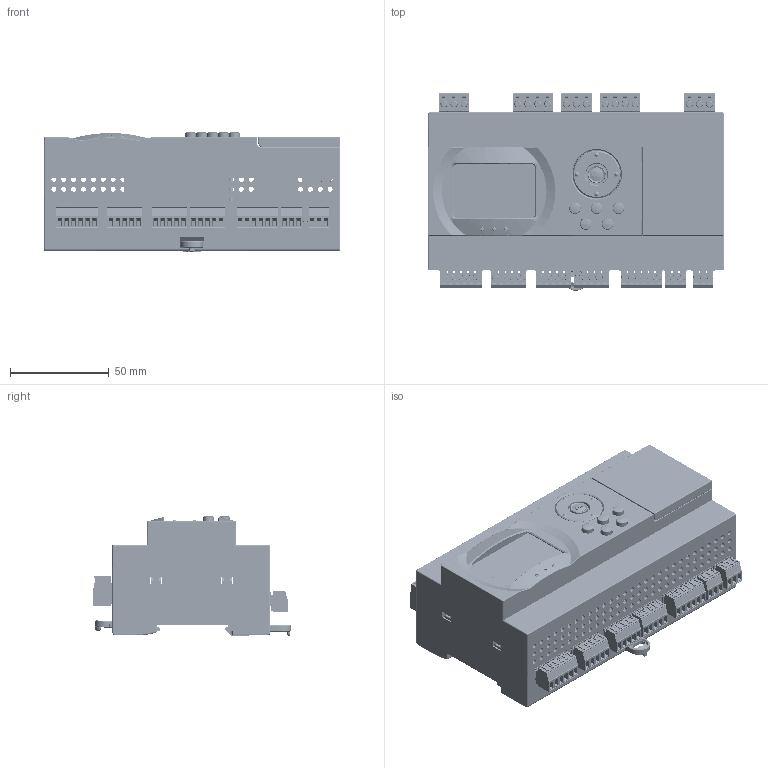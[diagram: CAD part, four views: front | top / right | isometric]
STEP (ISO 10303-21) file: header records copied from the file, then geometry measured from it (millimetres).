
FILE_DESCRIPTION (( 'STEP AP203' ), '1' );
FILE_NAME ('SMRE-HAVC-蚾饜极-V1.0.STEP', '2024-06-20T02:58:25', ( '' ), ( '' ), 'SwSTEP 2.0', 'SolidWorks 2018', '' );
FILE_SCHEMA (( 'CONFIG_CONTROL_DESIGN' ));
Length unit declared in the file: millimetre
Products named in the file (32): 28IO-JCJ; TP-508-3P-蚾饜极; SMRE-HAV-YJPJP-V1.0; HA03-01A+PA03-01A?3-5-3P; 縐諶1; TP-508-4P-蚾饜极; COMPOUND.step-12_1.stp.SLDPRT.stp.STEP-1; SM-寡蝶偌瑩-V1.0; FRB-12864R42-WX(1); USB-101AA.stp; HA03-01A+PA03-01A?3-5-6P; USB-101 .stp; HA05-00C+PA05-00A-3P-C; SMRE-HAV-PCB1-V1.0; SMRE-HAV-PCB2-V1.0; SMRE-HAVC-蚾饜极-V1.0; SMRE-HAV-SG-V1.0; USB-C; SMRE-HAV-FG-V1.0; HA05-00C+PA05-00A-4P-C; 縐諶2; USB-1010; JL2EDGRC-5.08-4P-T; RJ45-LED; HA03-01A+PA03-01A?3-5-5P; SMRE-HAV-PCB蚾饜极-V1.0; SW-T1-A0410-H5; DDC-7P絳嫖翐-G3P; JL2EDGRC-5.08-3P-T; USB-101BB.stp; TF縐羞-LCEDA; SMRE-HAV-XG-V1.0
Assembly tree (47 placements, depth 5):
  SMRE-HAVC-蚾饜极-V1.0
    SMRE-HAV-XG-V1.0
    SMRE-HAV-SG-V1.0
    縐諶1
    縐諶2
    SMRE-HAV-PCB蚾饜极-V1.0
      SMRE-HAV-PCB1-V1.0
      SMRE-HAV-PCB2-V1.0
      HA03-01A+PA03-01A?3-5-6P  x2
      HA03-01A+PA03-01A?3-5-5P  x3
      HA03-01A+PA03-01A?3-5-3P  x2
      28IO-JCJ
      COMPOUND.step-12_1.stp.SLDPRT.stp.STEP-1
      USB-C
      TF縐羞-LCEDA
      FRB-12864R42-WX(1)
      RJ45-LED
      SW-T1-A0410-H5  x10
      USB-1010
        USB-101 .stp
          USB-101AA.stp
          USB-101BB.stp
      TP-508-3P-蚾饜极  x3
        JL2EDGRC-5.08-3P-T
        HA05-00C+PA05-00A-3P-C
      TP-508-4P-蚾饜极  x2
        JL2EDGRC-5.08-4P-T
        HA05-00C+PA05-00A-4P-C
    DDC-7P絳嫖翐-G3P
    SM-寡蝶偌瑩-V1.0
    SMRE-HAV-FG-V1.0
    SMRE-HAV-YJPJP-V1.0
Bounding box: 150 x 100.1 x 60.7 mm (x, y, z)
Volume: 189530.4 mm3; surface area: 243312.6 mm2
Topology: 109 solids, 440 shells, 21844 faces, 60950 edges, 40112 vertices
Faces by surface type: plane 13456, cylinder 5866, bspline 1338, torus 517, cone 435, sphere 232
Entity records: 463729 total; most frequent: CARTESIAN_POINT 175388, ORIENTED_EDGE 65272, DIRECTION 50562, EDGE_CURVE 32636, VERTEX_POINT 21456, LINE 17634, VECTOR 17634, AXIS2_PLACEMENT_3D 16464
